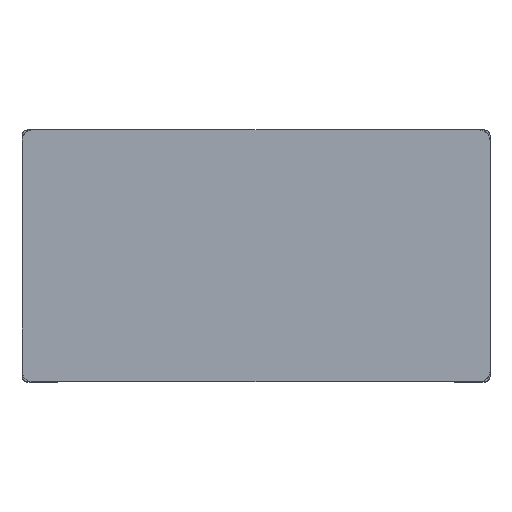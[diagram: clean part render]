
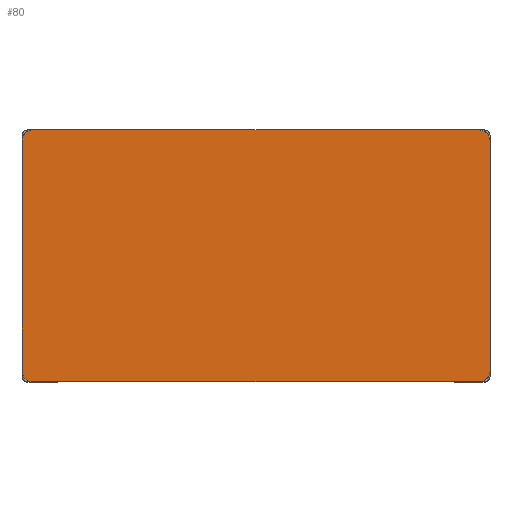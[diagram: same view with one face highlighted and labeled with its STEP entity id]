
A CAD part, top view. The second image highlights one B-rep face of the part: STEP entity #80.
In plain terms, the highlighted planar face has unit normal (0, 0, 1).
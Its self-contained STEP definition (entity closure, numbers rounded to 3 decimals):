
#80=ADVANCED_FACE($,(#238),#2098,.T.);
#238=FACE_OUTER_BOUND($,#396,.T.);
#396=EDGE_LOOP($,(#596,#597,#598,#599,#600,#601,#602,#603));
#596=ORIENTED_EDGE($,*,*,#1391,.F.);
#597=ORIENTED_EDGE($,*,*,#1382,.F.);
#598=ORIENTED_EDGE($,*,*,#1390,.F.);
#599=ORIENTED_EDGE($,*,*,#1381,.F.);
#600=ORIENTED_EDGE($,*,*,#1389,.F.);
#601=ORIENTED_EDGE($,*,*,#1380,.F.);
#602=ORIENTED_EDGE($,*,*,#1388,.F.);
#603=ORIENTED_EDGE($,*,*,#1383,.F.);
#1380=EDGE_CURVE($,#1781,#1780,#2350,.T.);
#1381=EDGE_CURVE($,#1783,#1782,#2351,.T.);
#1382=EDGE_CURVE($,#1785,#1784,#2352,.T.);
#1383=EDGE_CURVE($,#1787,#1786,#2353,.T.);
#1388=EDGE_CURVE($,#1786,#1781,#2166,.T.);
#1389=EDGE_CURVE($,#1780,#1783,#2167,.T.);
#1390=EDGE_CURVE($,#1782,#1785,#2168,.T.);
#1391=EDGE_CURVE($,#1784,#1787,#2169,.T.);
#1780=VERTEX_POINT($,#2918);
#1781=VERTEX_POINT($,#2919);
#1782=VERTEX_POINT($,#2920);
#1783=VERTEX_POINT($,#2921);
#1784=VERTEX_POINT($,#2922);
#1785=VERTEX_POINT($,#2923);
#1786=VERTEX_POINT($,#2924);
#1787=VERTEX_POINT($,#2925);
#2098=PLANE($,#2648);
#2166=(
BOUNDED_CURVE()
B_SPLINE_CURVE(2,(#2812,#2813,#2814),.UNSPECIFIED.,.F.,.F.)
B_SPLINE_CURVE_WITH_KNOTS((3,3),(-1.,0.),.UNSPECIFIED.)
CURVE()
GEOMETRIC_REPRESENTATION_ITEM()
RATIONAL_B_SPLINE_CURVE((1.,0.707,1.))
REPRESENTATION_ITEM($)
);
#2167=(
BOUNDED_CURVE()
B_SPLINE_CURVE(2,(#2815,#2816,#2817),.UNSPECIFIED.,.F.,.F.)
B_SPLINE_CURVE_WITH_KNOTS((3,3),(0.,1.),.UNSPECIFIED.)
CURVE()
GEOMETRIC_REPRESENTATION_ITEM()
RATIONAL_B_SPLINE_CURVE((1.,0.707,1.))
REPRESENTATION_ITEM($)
);
#2168=(
BOUNDED_CURVE()
B_SPLINE_CURVE(2,(#2818,#2819,#2820),.UNSPECIFIED.,.F.,.F.)
B_SPLINE_CURVE_WITH_KNOTS((3,3),(0.,1.),.UNSPECIFIED.)
CURVE()
GEOMETRIC_REPRESENTATION_ITEM()
RATIONAL_B_SPLINE_CURVE((1.,0.707,1.))
REPRESENTATION_ITEM($)
);
#2169=(
BOUNDED_CURVE()
B_SPLINE_CURVE(2,(#2821,#2822,#2823),.UNSPECIFIED.,.F.,.F.)
B_SPLINE_CURVE_WITH_KNOTS((3,3),(0.,1.),.UNSPECIFIED.)
CURVE()
GEOMETRIC_REPRESENTATION_ITEM()
RATIONAL_B_SPLINE_CURVE((1.,0.707,1.))
REPRESENTATION_ITEM($)
);
#2350=B_SPLINE_CURVE_WITH_KNOTS($,1,(#2792,#2793),.UNSPECIFIED.,.F.,.F.,
(2,2),(30.,670.),.UNSPECIFIED.);
#2351=B_SPLINE_CURVE_WITH_KNOTS($,1,(#2794,#2795),.UNSPECIFIED.,.F.,.F.,
(2,2),(30.,1270.),.UNSPECIFIED.);
#2352=B_SPLINE_CURVE_WITH_KNOTS($,1,(#2796,#2797),.UNSPECIFIED.,.F.,.F.,
(2,2),(30.,670.),.UNSPECIFIED.);
#2353=B_SPLINE_CURVE_WITH_KNOTS($,1,(#2798,#2799),.UNSPECIFIED.,.F.,.F.,
(2,2),(30.,1270.),.UNSPECIFIED.);
#2648=AXIS2_PLACEMENT_3D($,#2858,#2717,$);
#2717=DIRECTION($,(0.,0.,1.));
#2792=CARTESIAN_POINT($,(0.,30.,402.));
#2793=CARTESIAN_POINT($,(0.,670.,402.));
#2794=CARTESIAN_POINT($,(30.,700.,402.));
#2795=CARTESIAN_POINT($,(1270.,700.,402.));
#2796=CARTESIAN_POINT($,(1300.,670.,402.));
#2797=CARTESIAN_POINT($,(1300.,30.,402.));
#2798=CARTESIAN_POINT($,(1270.,0.,402.));
#2799=CARTESIAN_POINT($,(30.,0.,402.));
#2812=CARTESIAN_POINT($,(30.,0.,402.));
#2813=CARTESIAN_POINT($,(0.,0.,402.));
#2814=CARTESIAN_POINT($,(0.,30.,402.));
#2815=CARTESIAN_POINT($,(0.,670.,402.));
#2816=CARTESIAN_POINT($,(0.,700.,402.));
#2817=CARTESIAN_POINT($,(30.,700.,402.));
#2818=CARTESIAN_POINT($,(1270.,700.,402.));
#2819=CARTESIAN_POINT($,(1300.,700.,402.));
#2820=CARTESIAN_POINT($,(1300.,670.,402.));
#2821=CARTESIAN_POINT($,(1300.,30.,402.));
#2822=CARTESIAN_POINT($,(1300.,0.,402.));
#2823=CARTESIAN_POINT($,(1270.,0.,402.));
#2858=CARTESIAN_POINT($,(0.,0.,402.));
#2918=CARTESIAN_POINT($,(0.,670.,402.));
#2919=CARTESIAN_POINT($,(0.,30.,402.));
#2920=CARTESIAN_POINT($,(1270.,700.,402.));
#2921=CARTESIAN_POINT($,(30.,700.,402.));
#2922=CARTESIAN_POINT($,(1300.,30.,402.));
#2923=CARTESIAN_POINT($,(1300.,670.,402.));
#2924=CARTESIAN_POINT($,(30.,0.,402.));
#2925=CARTESIAN_POINT($,(1270.,0.,402.));
